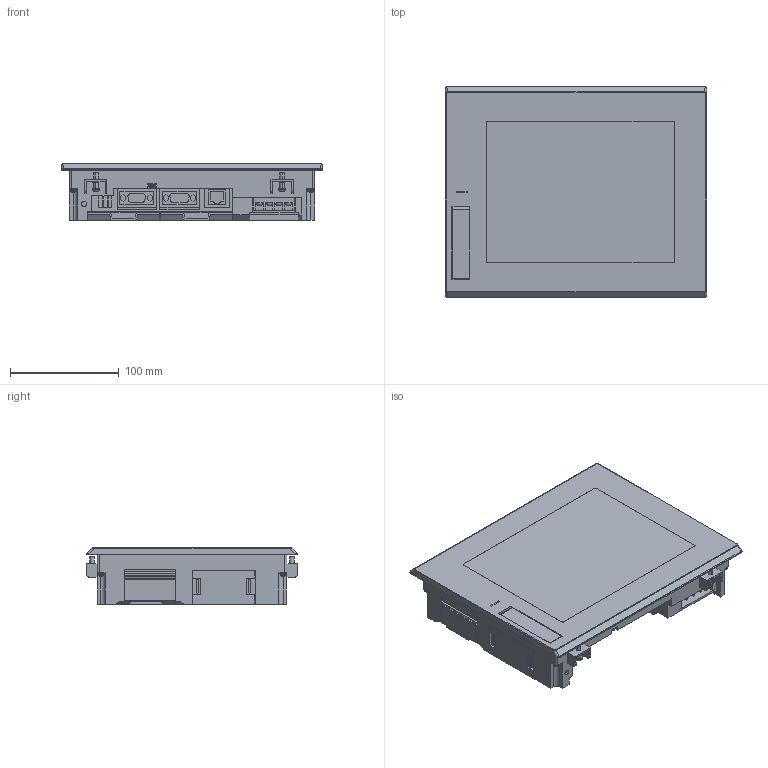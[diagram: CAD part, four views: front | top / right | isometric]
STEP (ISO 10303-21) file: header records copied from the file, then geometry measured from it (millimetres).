
FILE_DESCRIPTION((''),'2;1');
FILE_NAME('GT2708_ASM','2013-09-03T',('KW48605'),(''),'PRO/ENGINEER BY PARAMETRIC TECHNOLOGY CORPORATION, 2011490','PRO/ENGINEER BY PARAMETRIC TECHNOLOGY CORPORATION, 2011490','');
FILE_SCHEMA(('CONFIG_CONTROL_DESIGN'));
Length unit declared in the file: millimetre
Products named in the file (6): GT2708; COVER_1; COVER_2; COVER_3; TORITUKE; GT2708_ASM
Assembly tree (9 placements, depth 2):
  GT2708_ASM
    GT2708
    COVER_1  x2
    COVER_2
    COVER_3
    TORITUKE  x4
Bounding box: 241 x 195 x 52 mm (x, y, z)
Volume: 1832205.1 mm3; surface area: 188710 mm2
Topology: 9 solids, 13 shells, 710 faces, 1954 edges, 1296 vertices
Faces by surface type: plane 460, cylinder 160, cone 30, sphere 26, torus 20, bspline 14
Entity records: 21684 total; most frequent: CARTESIAN_POINT 6024, ORIENTED_EDGE 3340, DIRECTION 3064, EDGE_CURVE 1670, VECTOR 1158, LINE 1158, VERTEX_POINT 1124, AXIS2_PLACEMENT_3D 953
